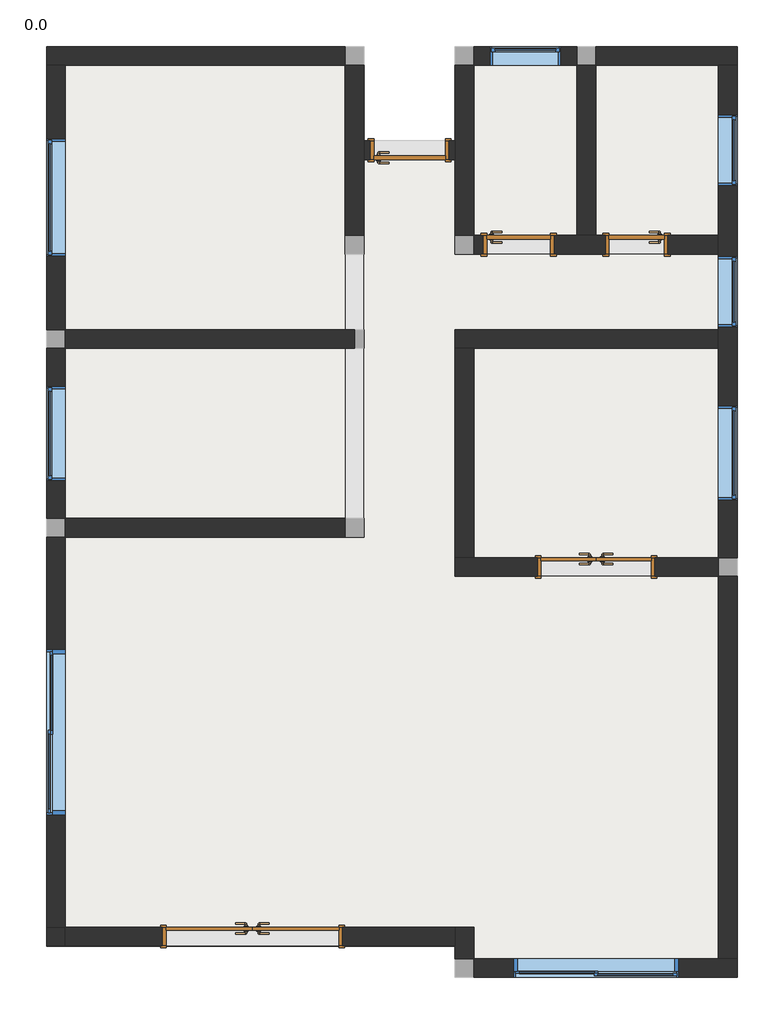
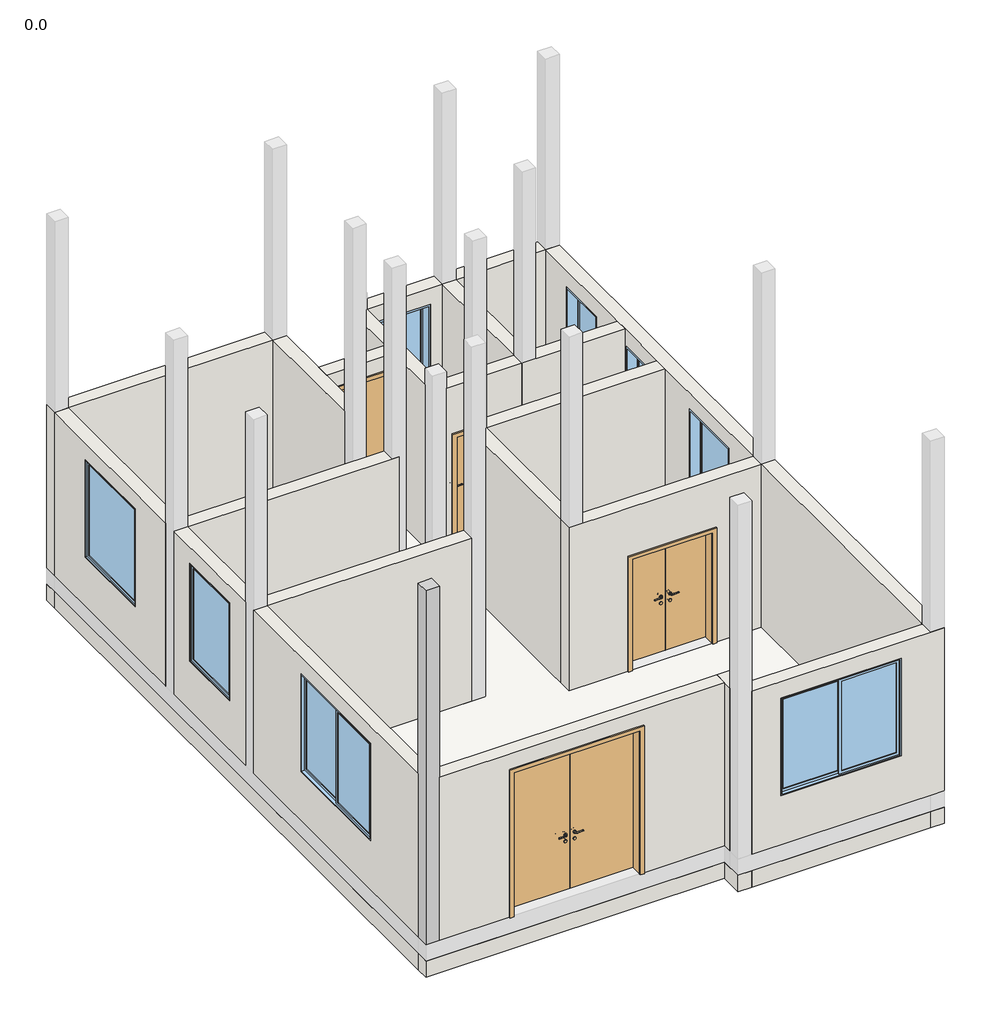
# One storey, part 1 of 2: 33 walls, 8 windows, 5 doors, 4 slabs, 2 columns.
"""IFC4 building model written with IfcOpenShell, lengths in millimetres."""

from ifc_helpers import new_model, si_unit, frame, origin, origin_with_axes, place, context, project, spatial, polyline, outline, extrude, faceted_brep, transform, mapped, element, save
from components import door_1000x2700_0706545c, door_1500x2100_cd5af115, door_2300x2700_a540c82a, door_800x2100_b0ab4c72, door_900_x_2100mm_2716a3da, window_1200x1800_594b251d, window_1500x1800_15bb4d9f, window_2100x1800_b942ef4d, window_900_x_1800mm_95888512

model = new_model("IFC4")

# Units and contexts
model_context = context("Model", 3, world=origin())
ifc_project = project(units=[si_unit("LENGTHUNIT", "METRE", prefix="MILLI")], contexts=[model_context])

# Site, building, storey
site = spatial("IfcSite", under=ifc_project)
building = spatial("IfcBuilding", under=site)
storey = spatial("IfcBuildingStorey", under=building, Name="0.0", Elevation=0.0)

# Columns
placement = place(None, origin())
element("IfcColumn", 1, ObjectType="混凝土 - 矩形 - 柱 : GZ2 240X240", at=placement, inside=storey, context=model_context, shape_type="SweptSolid", body=[
    extrude(outline(polyline([(-17058.0662967, -9534.3219782), (-17058.0662967, -9774.3219782), (-17298.0662967, -9774.3219782), (-17298.0662967, -9534.3219782), (-17058.0662967, -9534.3219782)])), origin_with_axes(), (0.0, 0.0, 1.0), 6510.0),
])
element("IfcColumn", 2, ObjectType="混凝土 - 矩形 - 柱 : GZ2 240X240", at=placement, inside=storey, context=model_context, shape_type="Brep", body=[
    faceted_brep([(-17058.0662967, -9534.3219782, 0.0), (-17058.0662967, -9774.3219782, 0.0), (-17298.0662967, -9774.3219782, 0.0), (-17298.0662967, -9534.3219782, 0.0), (-17058.0662967, -9534.3219782, 6510.0), (-17058.0662967, -9774.3219782, 6510.0), (-17058.0662967, -9774.3219782, 6300.0), (-17058.0662967, -9774.3219782, 3300.0), (-17058.0662967, -9774.3219782, 3000.0), (-17058.0662967, -9534.3219782, 3000.0), (-17058.0662967, -9534.3219782, 3300.0), (-17058.0662967, -9534.3219782, 6300.0), (-17298.0662967, -9774.3219782, 6510.0), (-17298.0662967, -9534.3219782, 6510.0), (-17298.0662967, -9534.3219782, 6300.0), (-17298.0662967, -9534.3219782, 3300.0), (-17298.0662967, -9534.3219782, 3000.0)], [[[0, 1, 2, 3]], [[4, 5, 6, 7, 8, 1, 0, 9, 10, 11]], [[5, 12, 2, 1, 8, 7, 6]], [[12, 13, 14, 15, 16, 3, 2]], [[13, 4, 11, 10, 9, 0, 3, 16, 15, 14]], [[4, 13, 12, 5]]]),
])

# Doors
door_1000x2700_shape = door_1000x2700_0706545c(model_context)
element("IfcDoor", 3, ObjectType="单嵌板木门 1 : 1000X2700", at=placement, inside=storey, context=model_context, shape_type="MappedRepresentation", body=[
    mapped(door_1000x2700_shape, transform((-12678.0662967, 345.6780218, 0.0), x_axis=(1.0, 0.0, 0.0), y_axis=(0.0, 1.0, 0.0), z_axis=(0.0, 0.0, 1.0))),
])
door_1500x2100_shape = door_1500x2100_cd5af115(model_context)
element("IfcDoor", 4, ObjectType="双面嵌板木门 1 : 1500X2100", at=placement, inside=storey, context=model_context, shape_type="MappedRepresentation", body=[
    mapped(door_1500x2100_shape, transform((-10303.0662967, -4954.3219782, 0.0), x_axis=(1.0, 0.0, 0.0), y_axis=(0.0, 1.0, 0.0), z_axis=(0.0, 0.0, 1.0))),
])
door_2300x2700_shape = door_2300x2700_a540c82a(model_context)
element("IfcDoor", 5, ObjectType="双面嵌板木门 1 : 2300X2700", at=placement, inside=storey, context=model_context, shape_type="MappedRepresentation", body=[
    mapped(door_2300x2700_shape, transform((-14678.0662967, -9654.3219782, 0.0), x_axis=(1.0, 0.0, 0.0), y_axis=(0.0, 1.0, 0.0), z_axis=(0.0, 0.0, 1.0))),
])
door_800x2100_shape = door_800x2100_b0ab4c72(model_context)
element("IfcDoor", 6, ObjectType="单嵌板木门 1 : 800X2100", at=placement, inside=storey, context=model_context, shape_type="MappedRepresentation", body=[
    mapped(door_800x2100_shape, transform((-9788.0662967, -854.3219782, 0.0), x_axis=(-1.0, 0.0, 0.0), y_axis=(0.0, -1.0, 0.0), z_axis=(0.0, 0.0, 1.0))),
])
door_900_x_2100mm_shape = door_900_x_2100mm_2716a3da(model_context)
element("IfcDoor", 7, ObjectType="单嵌板木门 1 : 900 x 2100mm", at=placement, inside=storey, context=model_context, shape_type="MappedRepresentation", body=[
    mapped(door_900_x_2100mm_shape, transform((-11288.0662967, -854.3219782, 0.0), x_axis=(1.0, 0.0, 0.0), y_axis=(0.0, 1.0, 0.0), z_axis=(0.0, 0.0, 1.0))),
])

# Slabs
element("IfcSlab", 8, ObjectType="常规 - 100mm", at=placement, inside=storey, context=model_context, shape_type="Brep", body=[
    faceted_brep([(-13498.0662967, 1425.6780218, -100.0), (-13498.0662967, -1934.3219782, -100.0), (-17058.0662967, -1934.3219782, -100.0), (-17058.0662967, 1425.6780218, -100.0), (-13498.0662967, 1425.6780218, 0.0), (-17058.0662967, 1425.6780218, 0.0), (-17058.0662967, -1934.3219782, 0.0), (-13498.0662967, -1934.3219782, 0.0), (-13498.0662967, 225.6780218, 0.0)], [[[0, 1, 2, 3]], [[4, 5, 6, 7, 8]], [[1, 0, 4, 8, 7]], [[2, 1, 7, 6]], [[3, 2, 6, 5]], [[0, 3, 5, 4]]]),
])
element("IfcSlab", 9, ObjectType="常规 - 100mm", at=placement, inside=storey, context=model_context, shape_type="SweptSolid", body=[
    extrude(outline(polyline([(-13498.0662967, -2174.3219782), (-13498.0662967, -4334.3219782), (-17058.0662967, -4334.3219782), (-17058.0662967, -2174.3219782), (-13498.0662967, -2174.3219782)])), frame((0.0, 0.0, -100.0), z_axis=(0.0, 0.0, 1.0), x_axis=(1.0, 0.0, 0.0)), (0.0, 0.0, 1.0), 100.0),
])
element("IfcSlab", 10, ObjectType="常规 - 100mm", at=placement, inside=storey, context=model_context, shape_type="Brep", body=[
    faceted_brep([(-11858.0662967, -9934.3219782, -100.0), (-11858.0662967, -9534.3219782, -100.0), (-17058.0662967, -9534.3219782, -100.0), (-17058.0662967, -4574.3219782, -100.0), (-13258.0662967, -4574.3219782, -100.0), (-13258.0662967, 225.6780218, -100.0), (-12098.0662967, 225.6780218, -100.0), (-12098.0662967, -974.3219782, -100.0), (-8748.0662967, -974.3219782, -100.0), (-8748.0662967, -1934.3219782, -100.0), (-12098.0662967, -1934.3219782, -100.0), (-12098.0662967, -5074.3219782, -100.0), (-8748.0662967, -5074.3219782, -100.0), (-8748.0662967, -9934.3219782, -100.0), (-11858.0662967, -9934.3219782, 0.0), (-8748.0662967, -9934.3219782, 0.0), (-8748.0662967, -5074.3219782, 0.0), (-12098.0662967, -5074.3219782, 0.0), (-12098.0662967, -4834.3219782, 0.0), (-12098.0662967, -2174.3219782, 0.0), (-12098.0662967, -1934.3219782, 0.0), (-8748.0662967, -1934.3219782, 0.0), (-8748.0662967, -974.3219782, 0.0), (-11858.0662967, -974.3219782, 0.0), (-12098.0662967, -974.3219782, 0.0), (-12098.0662967, 225.6780218, 0.0), (-13258.0662967, 225.6780218, 0.0), (-13258.0662967, -2174.3219782, 0.0), (-13258.0662967, -4334.3219782, 0.0), (-13258.0662967, -4574.3219782, 0.0), (-17058.0662967, -4574.3219782, 0.0), (-17058.0662967, -9534.3219782, 0.0), (-12098.0662967, -9534.3219782, 0.0), (-11858.0662967, -9534.3219782, 0.0)], [[[0, 1, 2, 3, 4, 5, 6, 7, 8, 9, 10, 11, 12, 13]], [[14, 15, 16, 17, 18, 19, 20, 21, 22, 23, 24, 25, 26, 27, 28, 29, 30, 31, 32, 33]], [[1, 0, 14, 33]], [[2, 1, 33, 32, 31]], [[3, 2, 31, 30]], [[4, 3, 30, 29]], [[5, 4, 29, 28, 27, 26]], [[6, 5, 26, 25]], [[7, 6, 25, 24]], [[12, 11, 17, 16]], [[13, 12, 16, 15]], [[0, 13, 15, 14]], [[8, 7, 24, 23, 22]], [[9, 8, 22, 21]], [[10, 9, 21, 20]], [[11, 10, 20, 19, 18, 17]]]),
])
element("IfcSlab", 11, ObjectType="常规 - 100mm", at=placement, inside=storey, context=model_context, shape_type="SweptSolid", body=[
    extrude(outline(polyline([(-10548.0662967, 1425.6780218), (-10548.0662967, -734.3219782), (-11858.0662967, -734.3219782), (-11858.0662967, 1425.6780218), (-10548.0662967, 1425.6780218)])), frame((0.0, 0.0, -130.0), z_axis=(0.0, 0.0, 1.0), x_axis=(1.0, 0.0, 0.0)), (0.0, 0.0, 1.0), 100.0),
    extrude(outline(polyline([(-10308.0662967, -734.3219782), (-10308.0662967, 1425.6780218), (-8748.0662967, 1425.6780218), (-8748.0662967, -734.3219782), (-10308.0662967, -734.3219782)])), frame((0.0, 0.0, -130.0), z_axis=(0.0, 0.0, 1.0), x_axis=(1.0, 0.0, 0.0)), (0.0, 0.0, 1.0), 100.0),
    extrude(outline(polyline([(-8748.0662967, -2174.3219782), (-8748.0662967, -4834.3219782), (-11858.0662967, -4834.3219782), (-11858.0662967, -2174.3219782), (-8748.0662967, -2174.3219782)])), frame((0.0, 0.0, -130.0), z_axis=(0.0, 0.0, 1.0), x_axis=(1.0, 0.0, 0.0)), (0.0, 0.0, 1.0), 100.0),
])

# Walls
element("IfcWall", 12, ObjectType="240mm砖墙", at=placement, inside=storey, context=model_context, shape_type="Brep", body=[
    faceted_brep([(-17298.0662967, 1425.6780218, -600.0), (-17058.0662967, 1425.6780218, -600.0), (-13498.0662967, 1425.6780218, -600.0), (-13258.0662967, 1425.6780218, -600.0), (-13258.0662967, 1425.6780218, -300.0), (-13498.0662967, 1425.6780218, -300.0), (-17058.0662967, 1425.6780218, -300.0), (-17298.0662967, 1425.6780218, -300.0), (-17298.0662967, 1665.6780218, -600.0), (-17298.0662967, 1665.6780218, -300.0), (-13258.0662967, 1665.6780218, -300.0), (-13258.0662967, 1665.6780218, -600.0)], [[[0, 1, 2, 3, 4, 5, 6, 7]], [[8, 9, 10, 11]], [[3, 2, 1, 0, 8, 11]], [[7, 6, 5, 4, 10, 9]], [[4, 3, 11, 10]], [[0, 7, 9, 8]]]),
])
element("IfcWall", 13, ObjectType="240mm砖墙", at=placement, inside=storey, context=model_context, shape_type="Brep", body=[
    faceted_brep([(-13498.0662967, 1425.6780218, -600.0), (-13498.0662967, -1934.3219782, -600.0), (-13498.0662967, -2174.3219782, -600.0), (-13498.0662967, -4334.3219782, -600.0), (-13498.0662967, -4574.3219782, -600.0), (-13498.0662967, -4574.3219782, -300.0), (-13498.0662967, -4334.3219782, -300.0), (-13498.0662967, -2174.3219782, -300.0), (-13498.0662967, -1934.3219782, -300.0), (-13498.0662967, 1425.6780218, -300.0), (-13258.0662967, 1425.6780218, -600.0), (-13258.0662967, 1425.6780218, -300.0), (-13258.0662967, 465.6780218, -300.0), (-13258.0662967, 225.6780218, -300.0), (-13258.0662967, -4574.3219782, -300.0), (-13258.0662967, -4574.3219782, -600.0), (-13258.0662967, 225.6780218, -600.0), (-13258.0662967, 465.6780218, -600.0)], [[[0, 1, 2, 3, 4, 5, 6, 7, 8, 9]], [[10, 11, 12, 13, 14, 15, 16, 17]], [[4, 3, 2, 1, 0, 10, 17, 16, 15]], [[9, 8, 7, 6, 5, 14, 13, 12, 11]], [[0, 9, 11, 10]], [[5, 4, 15, 14]]]),
])
element("IfcWall", 14, ObjectType="240mm砖墙", at=placement, inside=storey, context=model_context, shape_type="SweptSolid", body=[
    extrude(outline(polyline([(-11978.0662967, 225.6780218), (-13258.0662967, 225.6780218), (-13258.0662967, 465.6780218), (-11978.0662967, 465.6780218), (-11978.0662967, 225.6780218)])), frame((0.0, 0.0, -600.0), z_axis=(0.0, 0.0, 1.0), x_axis=(1.0, 0.0, 0.0)), (0.0, 0.0, 1.0), 300.0),
])
element("IfcWall", 15, ObjectType="240mm砖墙", at=placement, inside=storey, context=model_context, shape_type="Brep", body=[
    faceted_brep([(-11978.0662967, 1425.6780218, -600.0), (-10548.0662967, 1425.6780218, -600.0), (-10308.0662967, 1425.6780218, -600.0), (-8748.0662967, 1425.6780218, -600.0), (-8508.0662967, 1425.6780218, -600.0), (-8508.0662967, 1425.6780218, -300.0), (-8748.0662967, 1425.6780218, -300.0), (-10308.0662967, 1425.6780218, -300.0), (-10548.0662967, 1425.6780218, -300.0), (-11978.0662967, 1425.6780218, -300.0), (-11978.0662967, 1665.6780218, -600.0), (-11978.0662967, 1665.6780218, -300.0), (-8508.0662967, 1665.6780218, -300.0), (-8508.0662967, 1665.6780218, -600.0)], [[[0, 1, 2, 3, 4, 5, 6, 7, 8, 9]], [[10, 11, 12, 13]], [[4, 3, 2, 1, 0, 10, 13]], [[9, 8, 7, 6, 5, 12, 11]], [[0, 9, 11, 10]], [[5, 4, 13, 12]]]),
])
element("IfcWall", 16, ObjectType="240mm砖墙", at=placement, inside=storey, context=model_context, shape_type="Brep", body=[
    faceted_brep([(-8748.0662967, 1425.6780218, -600.0), (-8748.0662967, -734.3219782, -600.0), (-8748.0662967, -974.3219782, -600.0), (-8748.0662967, -1934.3219782, -600.0), (-8748.0662967, -2174.3219782, -600.0), (-8748.0662967, -4834.3219782, -600.0), (-8748.0662967, -5074.3219782, -600.0), (-8748.0662967, -9934.3219782, -600.0), (-8748.0662967, -10174.3219782, -600.0), (-8748.0662967, -10174.3219782, -300.0), (-8748.0662967, -9934.3219782, -300.0), (-8748.0662967, -5074.3219782, -300.0), (-8748.0662967, -4834.3219782, -300.0), (-8748.0662967, -2174.3219782, -300.0), (-8748.0662967, -1934.3219782, -300.0), (-8748.0662967, -974.3219782, -300.0), (-8748.0662967, -734.3219782, -300.0), (-8748.0662967, 1425.6780218, -300.0), (-8508.0662967, 1425.6780218, -600.0), (-8508.0662967, 1425.6780218, -300.0), (-8508.0662967, -10174.3219782, -300.0), (-8508.0662967, -10174.3219782, -600.0)], [[[0, 1, 2, 3, 4, 5, 6, 7, 8, 9, 10, 11, 12, 13, 14, 15, 16, 17]], [[18, 19, 20, 21]], [[8, 7, 6, 5, 4, 3, 2, 1, 0, 18, 21]], [[17, 16, 15, 14, 13, 12, 11, 10, 9, 20, 19]], [[0, 17, 19, 18]], [[9, 8, 21, 20]]]),
])
element("IfcWall", 17, ObjectType="240mm砖墙", at=placement, inside=storey, context=model_context, shape_type="SweptSolid", body=[
    extrude(outline(polyline([(-11858.0662967, -9934.3219782), (-8748.0662967, -9934.3219782), (-8748.0662967, -10174.3219782), (-11858.0662967, -10174.3219782), (-11858.0662967, -9934.3219782)])), frame((0.0, 0.0, -600.0), z_axis=(0.0, 0.0, 1.0), x_axis=(1.0, 0.0, 0.0)), (0.0, 0.0, 1.0), 300.0),
])
element("IfcWall", 18, ObjectType="240mm砖墙", at=placement, inside=storey, context=model_context, shape_type="Brep", body=[
    faceted_brep([(-11858.0662967, -10174.3219782, -600.0), (-11858.0662967, -9934.3219782, -600.0), (-11858.0662967, -9534.3219782, -600.0), (-11858.0662967, -9534.3219782, -300.0), (-11858.0662967, -9934.3219782, -300.0), (-11858.0662967, -10174.3219782, -300.0), (-12098.0662967, -10174.3219782, -600.0), (-12098.0662967, -10174.3219782, -300.0), (-12098.0662967, -9774.3219782, -300.0), (-12098.0662967, -9534.3219782, -300.0), (-12098.0662967, -9534.3219782, -600.0), (-12098.0662967, -9774.3219782, -600.0)], [[[0, 1, 2, 3, 4, 5]], [[6, 7, 8, 9, 10, 11]], [[2, 1, 0, 6, 11, 10]], [[5, 4, 3, 9, 8, 7]], [[0, 5, 7, 6]], [[3, 2, 10, 9]]]),
])
element("IfcWall", 19, ObjectType="240mm砖墙", at=placement, inside=storey, context=model_context, shape_type="Brep", body=[
    faceted_brep([(-12098.0662967, -9534.3219782, -600.0), (-17058.0662967, -9534.3219782, -600.0), (-17298.0662967, -9534.3219782, -600.0), (-17298.0662967, -9534.3219782, -300.0), (-17058.0662967, -9534.3219782, -300.0), (-12098.0662967, -9534.3219782, -300.0), (-12098.0662967, -9774.3219782, -600.0), (-12098.0662967, -9774.3219782, -300.0), (-17298.0662967, -9774.3219782, -300.0), (-17298.0662967, -9774.3219782, -600.0)], [[[0, 1, 2, 3, 4, 5]], [[6, 7, 8, 9]], [[2, 1, 0, 6, 9]], [[5, 4, 3, 8, 7]], [[0, 5, 7, 6]], [[3, 2, 9, 8]]]),
])
element("IfcWall", 20, ObjectType="240mm砖墙", at=placement, inside=storey, context=model_context, shape_type="Brep", body=[
    faceted_brep([(-17058.0662967, -9534.3219782, -600.0), (-17058.0662967, -4574.3219782, -600.0), (-17058.0662967, -4334.3219782, -600.0), (-17058.0662967, -2174.3219782, -600.0), (-17058.0662967, -1934.3219782, -600.0), (-17058.0662967, 1425.6780218, -600.0), (-17058.0662967, 1425.6780218, -300.0), (-17058.0662967, -1934.3219782, -300.0), (-17058.0662967, -2174.3219782, -300.0), (-17058.0662967, -4334.3219782, -300.0), (-17058.0662967, -4574.3219782, -300.0), (-17058.0662967, -9534.3219782, -300.0), (-17298.0662967, -9534.3219782, -600.0), (-17298.0662967, -9534.3219782, -300.0), (-17298.0662967, 1425.6780218, -300.0), (-17298.0662967, 1425.6780218, -600.0)], [[[0, 1, 2, 3, 4, 5, 6, 7, 8, 9, 10, 11]], [[12, 13, 14, 15]], [[5, 4, 3, 2, 1, 0, 12, 15]], [[11, 10, 9, 8, 7, 6, 14, 13]], [[0, 11, 13, 12]], [[6, 5, 15, 14]]]),
])
element("IfcWall", 21, ObjectType="240mm砖墙", at=placement, inside=storey, context=model_context, shape_type="SweptSolid", body=[
    extrude(outline(polyline([(-17058.0662967, -4334.3219782), (-13498.0662967, -4334.3219782), (-13498.0662967, -4574.3219782), (-17058.0662967, -4574.3219782), (-17058.0662967, -4334.3219782)])), frame((0.0, 0.0, -600.0), z_axis=(0.0, 0.0, 1.0), x_axis=(1.0, 0.0, 0.0)), (0.0, 0.0, 1.0), 300.0),
])
element("IfcWall", 22, ObjectType="240mm砖墙", at=placement, inside=storey, context=model_context, shape_type="SweptSolid", body=[
    extrude(outline(polyline([(-13498.0662967, -2174.3219782), (-17058.0662967, -2174.3219782), (-17058.0662967, -1934.3219782), (-13498.0662967, -1934.3219782), (-13498.0662967, -2174.3219782)])), frame((0.0, 0.0, -600.0), z_axis=(0.0, 0.0, 1.0), x_axis=(1.0, 0.0, 0.0)), (0.0, 0.0, 1.0), 300.0),
])
element("IfcWall", 23, ObjectType="240mm砖墙", at=placement, inside=storey, context=model_context, shape_type="Brep", body=[
    faceted_brep([(-8748.0662967, -734.3219782, -600.0), (-10308.0662967, -734.3219782, -600.0), (-10548.0662967, -734.3219782, -600.0), (-11978.0662967, -734.3219782, -600.0), (-11978.0662967, -734.3219782, -300.0), (-10548.0662967, -734.3219782, -300.0), (-10308.0662967, -734.3219782, -300.0), (-8748.0662967, -734.3219782, -300.0), (-8748.0662967, -974.3219782, -600.0), (-8748.0662967, -974.3219782, -300.0), (-11978.0662967, -974.3219782, -300.0), (-11978.0662967, -974.3219782, -600.0)], [[[0, 1, 2, 3, 4, 5, 6, 7]], [[8, 9, 10, 11]], [[3, 2, 1, 0, 8, 11]], [[4, 3, 11, 10]], [[7, 6, 5, 4, 10, 9]], [[0, 7, 9, 8]]]),
])
element("IfcWall", 24, ObjectType="240mm砖墙", at=placement, inside=storey, context=model_context, shape_type="SweptSolid", body=[
    extrude(outline(polyline([(-10548.0662967, -734.3219782), (-10548.0662967, 1425.6780218), (-10308.0662967, 1425.6780218), (-10308.0662967, -734.3219782), (-10548.0662967, -734.3219782)])), frame((0.0, 0.0, -600.0), z_axis=(0.0, 0.0, 1.0), x_axis=(1.0, 0.0, 0.0)), (0.0, 0.0, 1.0), 300.0),
])
element("IfcWall", 25, ObjectType="240mm砖墙", at=placement, inside=storey, context=model_context, shape_type="SweptSolid", body=[
    extrude(outline(polyline([(-11978.0662967, -4834.3219782), (-8748.0662967, -4834.3219782), (-8748.0662967, -5074.3219782), (-11978.0662967, -5074.3219782), (-11978.0662967, -4834.3219782)])), frame((0.0, 0.0, -600.0), z_axis=(0.0, 0.0, 1.0), x_axis=(1.0, 0.0, 0.0)), (0.0, 0.0, 1.0), 300.0),
])
element("IfcWall", 26, ObjectType="240mm砖墙", at=placement, inside=storey, context=model_context, shape_type="SweptSolid", body=[
    extrude(outline(polyline([(-11978.0662967, -1934.3219782), (-8748.0662967, -1934.3219782), (-8748.0662967, -2174.3219782), (-11978.0662967, -2174.3219782), (-11978.0662967, -1934.3219782)])), frame((0.0, 0.0, -600.0), z_axis=(0.0, 0.0, 1.0), x_axis=(1.0, 0.0, 0.0)), (0.0, 0.0, 1.0), 300.0),
])
element("IfcWall", 27, ObjectType="240mm砖墙", at=placement, inside=storey, context=model_context, shape_type="Brep", body=[
    faceted_brep([(-17298.0662967, 1425.6780218, 3000.0), (-17298.0662967, 1425.6780218, 0.0), (-17058.0662967, 1425.6780218, 0.0), (-13498.0662967, 1425.6780218, 0.0), (-13498.0662967, 1425.6780218, 3000.0), (-17058.0662967, 1425.6780218, 3000.0), (-17298.0662967, 1665.6780218, 0.0), (-17298.0662967, 1665.6780218, 3000.0), (-13498.0662967, 1665.6780218, 3000.0), (-13498.0662967, 1665.6780218, 0.0)], [[[0, 1, 2, 3, 4, 5]], [[6, 7, 8, 9]], [[1, 6, 9, 3, 2]], [[7, 0, 5, 4, 8]], [[4, 3, 9, 8]], [[1, 0, 7, 6]]]),
])
element("IfcWall", 28, ObjectType="240mm砖墙", at=placement, inside=storey, context=model_context, shape_type="Brep", body=[
    faceted_brep([(-13498.0662967, 1425.6780218, 0.0), (-13498.0662967, -734.3219782, 0.0), (-13498.0662967, -734.3219782, 3000.0), (-13498.0662967, 1425.6780218, 3000.0), (-13258.0662967, 1425.6780218, 0.0), (-13258.0662967, 1425.6780218, 3000.0), (-13258.0662967, 465.6780218, 3000.0), (-13258.0662967, 225.6780218, 3000.0), (-13258.0662967, -734.3219782, 3000.0), (-13258.0662967, -734.3219782, 0.0), (-13258.0662967, 225.6780218, 0.0), (-13258.0662967, 465.6780218, 0.0)], [[[0, 1, 2, 3]], [[4, 5, 6, 7, 8, 9, 10, 11]], [[1, 0, 4, 11, 10, 9]], [[2, 1, 9, 8]], [[3, 2, 8, 7, 6, 5]], [[0, 3, 5, 4]]]),
])
element("IfcWall", 29, ObjectType="240mm砖墙", at=placement, inside=storey, context=model_context, shape_type="Brep", body=[
    faceted_brep([(-11858.0662967, 1425.6780218, 0.0), (-11858.0662967, 1425.6780218, 3000.0), (-11858.0662967, -734.3219782, 3000.0), (-11858.0662967, -734.3219782, 0.0), (-12098.0662967, 1425.6780218, 3000.0), (-12098.0662967, 1425.6780218, 0.0), (-12098.0662967, 465.6780218, 0.0), (-12098.0662967, 225.6780218, 0.0), (-12098.0662967, -734.3219782, 0.0), (-12098.0662967, -734.3219782, 3000.0), (-12098.0662967, 225.6780218, 3000.0), (-12098.0662967, 465.6780218, 3000.0)], [[[0, 1, 2, 3]], [[4, 5, 6, 7, 8, 9, 10, 11]], [[5, 0, 3, 8, 7, 6]], [[1, 4, 11, 10, 9, 2]], [[1, 0, 5, 4]], [[3, 2, 9, 8]]]),
])
element("IfcWall", 30, ObjectType="240mm砖墙", at=placement, inside=storey, context=model_context, shape_type="SweptSolid", body=[
    extrude(outline(polyline([(3000.0, -11858.0662967), (0.0, -11858.0662967), (0.0, -10548.0662967), (3000.0, -10548.0662967), (3000.0, -11858.0662967)]), holes=[polyline([(2700.0, -10753.0662967), (900.0, -10753.0662967), (900.0, -11653.0662967), (2700.0, -11653.0662967), (2700.0, -10753.0662967)])]), frame((0.0, 1425.6780218, 0.0), z_axis=(0.0, 1.0, 0.0), x_axis=(0.0, 0.0, 1.0)), (0.0, 0.0, 1.0), 240.0),
])
element("IfcWall", 31, ObjectType="240mm砖墙", at=placement, inside=storey, context=model_context, shape_type="Brep", body=[
    faceted_brep([(-10308.0662967, 1425.6780218, 0.0), (-8748.0662967, 1425.6780218, 0.0), (-8508.0662967, 1425.6780218, 0.0), (-8508.0662967, 1425.6780218, 3000.0), (-8748.0662967, 1425.6780218, 3000.0), (-10308.0662967, 1425.6780218, 3000.0), (-10308.0662967, 1665.6780218, 0.0), (-10308.0662967, 1665.6780218, 3000.0), (-8508.0662967, 1665.6780218, 3000.0), (-8508.0662967, 1665.6780218, 0.0)], [[[0, 1, 2, 3, 4, 5]], [[6, 7, 8, 9]], [[2, 1, 0, 6, 9]], [[5, 4, 3, 8, 7]], [[3, 2, 9, 8]], [[0, 5, 7, 6]]]),
])
element("IfcWall", 32, ObjectType="240mm砖墙", at=placement, inside=storey, context=model_context, shape_type="Brep", body=[
    faceted_brep([(-8748.0662967, 1425.6780218, 3000.0), (-8748.0662967, 1425.6780218, 0.0), (-8748.0662967, -734.3219782, 0.0), (-8748.0662967, -974.3219782, 0.0), (-8748.0662967, -1934.3219782, 0.0), (-8748.0662967, -2174.3219782, 0.0), (-8748.0662967, -4834.3219782, 0.0), (-8748.0662967, -4834.3219782, 3000.0), (-8748.0662967, -2174.3219782, 3000.0), (-8748.0662967, -1934.3219782, 3000.0), (-8748.0662967, -974.3219782, 3000.0), (-8748.0662967, -734.3219782, 3000.0), (-8748.0662967, -4104.3219782, 2700.0), (-8748.0662967, -4104.3219782, 900.0), (-8748.0662967, -2904.3219782, 900.0), (-8748.0662967, -2904.3219782, 2700.0), (-8748.0662967, -1904.3219782, 2700.0), (-8748.0662967, -1904.3219782, 900.0), (-8748.0662967, -1004.3219782, 900.0), (-8748.0662967, -1004.3219782, 2700.0), (-8748.0662967, -104.3219782, 2700.0), (-8748.0662967, -104.3219782, 900.0), (-8748.0662967, 795.6780218, 900.0), (-8748.0662967, 795.6780218, 2700.0), (-8508.0662967, 1425.6780218, 0.0), (-8508.0662967, 1425.6780218, 3000.0), (-8508.0662967, -4834.3219782, 3000.0), (-8508.0662967, -4834.3219782, 0.0), (-8508.0662967, -4104.3219782, 900.0), (-8508.0662967, -4104.3219782, 2700.0), (-8508.0662967, -2904.3219782, 2700.0), (-8508.0662967, -2904.3219782, 900.0), (-8508.0662967, -1904.3219782, 900.0), (-8508.0662967, -1904.3219782, 2700.0), (-8508.0662967, -1004.3219782, 2700.0), (-8508.0662967, -1004.3219782, 900.0), (-8508.0662967, -104.3219782, 900.0), (-8508.0662967, -104.3219782, 2700.0), (-8508.0662967, 795.6780218, 2700.0), (-8508.0662967, 795.6780218, 900.0)], [[[0, 1, 2, 3, 4, 5, 6, 7, 8, 9, 10, 11], [12, 13, 14, 15], [16, 17, 18, 19], [20, 21, 22, 23]], [[24, 25, 26, 27], [28, 29, 30, 31], [32, 33, 34, 35], [36, 37, 38, 39]], [[1, 24, 27, 6, 5, 4, 3, 2]], [[25, 0, 11, 10, 9, 8, 7, 26]], [[1, 0, 25, 24]], [[7, 6, 27, 26]], [[13, 12, 29, 28]], [[14, 13, 28, 31]], [[15, 14, 31, 30]], [[12, 15, 30, 29]], [[17, 16, 33, 32]], [[18, 17, 32, 35]], [[19, 18, 35, 34]], [[16, 19, 34, 33]], [[21, 20, 37, 36]], [[22, 21, 36, 39]], [[23, 22, 39, 38]], [[20, 23, 38, 37]]]),
    faceted_brep([(-8748.0662967, -9934.3219782, 0.0), (-8748.0662967, -9934.3219782, 3000.0), (-8748.0662967, -5074.3219782, 3000.0), (-8748.0662967, -5074.3219782, 0.0), (-8508.0662967, -9934.3219782, 3000.0), (-8508.0662967, -9934.3219782, 0.0), (-8508.0662967, -5074.3219782, 0.0), (-8508.0662967, -5074.3219782, 3000.0)], [[[0, 1, 2, 3]], [[4, 5, 6, 7]], [[5, 0, 3, 6]], [[1, 4, 7, 2]], [[1, 0, 5, 4]], [[3, 2, 7, 6]]]),
])
element("IfcWall", 33, ObjectType="240mm砖墙", at=placement, inside=storey, context=model_context, shape_type="Brep", body=[
    faceted_brep([(-8748.0662967, -5074.3219782, 3000.0), (-12098.0662967, -5074.3219782, 3000.0), (-12098.0662967, -5074.3219782, 0.0), (-11053.0662967, -5074.3219782, 0.0), (-11053.0662967, -5074.3219782, 2100.0), (-9553.0662967, -5074.3219782, 2100.0), (-9553.0662967, -5074.3219782, 0.0), (-8748.0662967, -5074.3219782, 0.0), (-12098.0662967, -4834.3219782, 3000.0), (-11858.0662967, -4834.3219782, 3000.0), (-8748.0662967, -4834.3219782, 3000.0), (-8748.0662967, -4834.3219782, 0.0), (-9553.0662967, -4834.3219782, 0.0), (-9553.0662967, -4834.3219782, 2100.0), (-11053.0662967, -4834.3219782, 2100.0), (-11053.0662967, -4834.3219782, 0.0), (-11858.0662967, -4834.3219782, 0.0), (-12098.0662967, -4834.3219782, 0.0)], [[[0, 1, 2, 3, 4, 5, 6, 7]], [[8, 9, 10, 11, 12, 13, 14, 15, 16, 17]], [[11, 7, 6, 12]], [[2, 17, 16, 15, 3]], [[1, 0, 10, 9, 8]], [[0, 7, 11, 10]], [[2, 1, 8, 17]], [[5, 13, 12, 6]], [[13, 5, 4, 14]], [[14, 4, 3, 15]]]),
])
element("IfcWall", 34, ObjectType="240mm砖墙", at=placement, inside=storey, context=model_context, shape_type="Brep", body=[
    faceted_brep([(-8748.0662967, -1934.3219782, 0.0), (-12098.0662967, -1934.3219782, 0.0), (-12098.0662967, -1934.3219782, 3000.0), (-8748.0662967, -1934.3219782, 3000.0), (-8748.0662967, -2174.3219782, 0.0), (-8748.0662967, -2174.3219782, 3000.0), (-11858.0662967, -2174.3219782, 3000.0), (-12098.0662967, -2174.3219782, 3000.0), (-12098.0662967, -2174.3219782, 0.0), (-11858.0662967, -2174.3219782, 0.0)], [[[0, 1, 2, 3]], [[4, 5, 6, 7, 8, 9]], [[1, 0, 4, 9, 8]], [[3, 2, 7, 6, 5]], [[0, 3, 5, 4]], [[2, 1, 8, 7]]]),
])
element("IfcWall", 35, ObjectType="240mm砖墙", at=placement, inside=storey, context=model_context, shape_type="SweptSolid", body=[
    extrude(outline(polyline([(-11858.0662967, -2174.3219782), (-11858.0662967, -4834.3219782), (-12098.0662967, -4834.3219782), (-12098.0662967, -2174.3219782), (-11858.0662967, -2174.3219782)])), origin_with_axes(), (0.0, 0.0, 1.0), 3000.0),
])
element("IfcWall", 36, ObjectType="240mm砖墙", at=placement, inside=storey, context=model_context, shape_type="SweptSolid", body=[
    extrude(outline(polyline([(-10548.0662967, -734.3219782), (-10548.0662967, 1425.6780218), (-10308.0662967, 1425.6780218), (-10308.0662967, -734.3219782), (-10548.0662967, -734.3219782)])), origin_with_axes(), (0.0, 0.0, 1.0), 3000.0),
])
element("IfcWall", 37, ObjectType="240mm砖墙", at=placement, inside=storey, context=model_context, shape_type="Brep", body=[
    faceted_brep([(-8748.0662967, -974.3219782, 3000.0), (-11858.0662967, -974.3219782, 3000.0), (-11858.0662967, -974.3219782, 0.0), (-11738.0662967, -974.3219782, 0.0), (-11738.0662967, -974.3219782, 2100.0), (-10838.0662967, -974.3219782, 2100.0), (-10838.0662967, -974.3219782, 0.0), (-10188.0662967, -974.3219782, 0.0), (-10188.0662967, -974.3219782, 2100.0), (-9388.0662967, -974.3219782, 2100.0), (-9388.0662967, -974.3219782, 0.0), (-8748.0662967, -974.3219782, 0.0), (-11858.0662967, -734.3219782, 3000.0), (-10548.0662967, -734.3219782, 3000.0), (-10308.0662967, -734.3219782, 3000.0), (-8748.0662967, -734.3219782, 3000.0), (-8748.0662967, -734.3219782, 0.0), (-9388.0662967, -734.3219782, 0.0), (-9388.0662967, -734.3219782, 2100.0), (-10188.0662967, -734.3219782, 2100.0), (-10188.0662967, -734.3219782, 0.0), (-10308.0662967, -734.3219782, 0.0), (-10548.0662967, -734.3219782, 0.0), (-10838.0662967, -734.3219782, 0.0), (-10838.0662967, -734.3219782, 2100.0), (-11738.0662967, -734.3219782, 2100.0), (-11738.0662967, -734.3219782, 0.0), (-11858.0662967, -734.3219782, 0.0)], [[[0, 1, 2, 3, 4, 5, 6, 7, 8, 9, 10, 11]], [[12, 13, 14, 15, 16, 17, 18, 19, 20, 21, 22, 23, 24, 25, 26, 27]], [[16, 11, 10, 17]], [[2, 27, 26, 3]], [[20, 7, 6, 23, 22, 21]], [[1, 0, 15, 14, 13, 12]], [[2, 1, 12, 27]], [[0, 11, 16, 15]], [[19, 8, 7, 20]], [[8, 19, 18, 9]], [[9, 18, 17, 10]], [[5, 24, 23, 6]], [[24, 5, 4, 25]], [[25, 4, 3, 26]]]),
])
element("IfcWall", 38, ObjectType="240mm砖墙", at=placement, inside=storey, context=model_context, shape_type="SweptSolid", body=[
    extrude(outline(polyline([(-13378.0662967, -2174.3219782), (-17058.0662967, -2174.3219782), (-17058.0662967, -1934.3219782), (-13378.0662967, -1934.3219782), (-13378.0662967, -2174.3219782)])), origin_with_axes(), (0.0, 0.0, 1.0), 3000.0),
])
element("IfcWall", 39, ObjectType="240mm砖墙", at=placement, inside=storey, context=model_context, shape_type="SweptSolid", body=[
    extrude(outline(polyline([(-17058.0662967, -4574.3219782), (-17058.0662967, -4334.3219782), (-13498.0662967, -4334.3219782), (-13498.0662967, -4574.3219782), (-17058.0662967, -4574.3219782)])), origin_with_axes(), (0.0, 0.0, 1.0), 3000.0),
])
element("IfcWall", 40, ObjectType="240mm砖墙", at=placement, inside=storey, context=model_context, shape_type="SweptSolid", body=[
    extrude(outline(polyline([(1425.6780218, 3000.0), (1425.6780218, 0.0), (-1934.3219782, 0.0), (-1934.3219782, 3000.0), (1425.6780218, 3000.0)]), holes=[polyline([(495.6780218, 900.0), (495.6780218, 2700.0), (-1004.3219782, 2700.0), (-1004.3219782, 900.0), (495.6780218, 900.0)])]), frame((-17298.0662967, 0.0, 0.0), z_axis=(1.0, 0.0, 0.0), x_axis=(0.0, 1.0, 0.0)), (0.0, 0.0, 1.0), 240.0),
    extrude(outline(polyline([(-2174.3219782, 3000.0), (-2174.3219782, 0.0), (-4334.3219782, 0.0), (-4334.3219782, 3000.0), (-2174.3219782, 3000.0)]), holes=[polyline([(-2654.3219782, 900.0), (-2654.3219782, 2700.0), (-3854.3219782, 2700.0), (-3854.3219782, 900.0), (-2654.3219782, 900.0)])]), frame((-17298.0662967, 0.0, 0.0), z_axis=(1.0, 0.0, 0.0), x_axis=(0.0, 1.0, 0.0)), (0.0, 0.0, 1.0), 240.0),
    extrude(outline(polyline([(-4574.3219782, 3000.0), (-4574.3219782, 0.0), (-9534.3219782, 0.0), (-9534.3219782, 3000.0), (-4574.3219782, 3000.0)]), holes=[polyline([(-6004.3219782, 900.0), (-6004.3219782, 2700.0), (-8104.3219782, 2700.0), (-8104.3219782, 900.0), (-6004.3219782, 900.0)])]), frame((-17298.0662967, 0.0, 0.0), z_axis=(1.0, 0.0, 0.0), x_axis=(0.0, 1.0, 0.0)), (0.0, 0.0, 1.0), 240.0),
])
element("IfcWall", 41, ObjectType="240mm砖墙", at=placement, inside=storey, context=model_context, shape_type="SweptSolid", body=[
    extrude(outline(polyline([(3000.0, -12098.0662967), (3000.0, -17058.0662967), (0.0, -17058.0662967), (0.0, -15828.0662967), (2700.0, -15828.0662967), (2700.0, -13528.0662967), (0.0, -13528.0662967), (0.0, -12098.0662967), (3000.0, -12098.0662967)])), frame((0.0, -9774.3219782, 0.0), z_axis=(0.0, 1.0, 0.0), x_axis=(0.0, 0.0, 1.0)), (0.0, 0.0, 1.0), 240.0),
])
element("IfcWall", 42, ObjectType="240mm砖墙", at=placement, inside=storey, context=model_context, shape_type="Brep", body=[
    faceted_brep([(-12098.0662967, -9534.3219782, 3000.0), (-12098.0662967, -9534.3219782, 0.0), (-12098.0662967, -9774.3219782, 0.0), (-12098.0662967, -9934.3219782, 0.0), (-12098.0662967, -9934.3219782, 3000.0), (-12098.0662967, -9774.3219782, 3000.0), (-11858.0662967, -9534.3219782, 0.0), (-11858.0662967, -9534.3219782, 3000.0), (-11858.0662967, -9934.3219782, 3000.0), (-11858.0662967, -9934.3219782, 0.0)], [[[0, 1, 2, 3, 4, 5]], [[6, 7, 8, 9]], [[1, 6, 9, 3, 2]], [[7, 0, 5, 4, 8]], [[1, 0, 7, 6]], [[4, 3, 9, 8]]]),
])
element("IfcWall", 43, ObjectType="240mm砖墙", at=placement, inside=storey, context=model_context, shape_type="Brep", body=[
    faceted_brep([(-8508.0662967, -9934.3219782, 0.0), (-8748.0662967, -9934.3219782, 0.0), (-11858.0662967, -9934.3219782, 0.0), (-11858.0662967, -9934.3219782, 3000.0), (-8748.0662967, -9934.3219782, 3000.0), (-8508.0662967, -9934.3219782, 3000.0), (-11353.0662967, -9934.3219782, 2700.0), (-11353.0662967, -9934.3219782, 900.0), (-9253.0662967, -9934.3219782, 900.0), (-9253.0662967, -9934.3219782, 2700.0), (-8508.0662967, -10174.3219782, 0.0), (-8508.0662967, -10174.3219782, 3000.0), (-11858.0662967, -10174.3219782, 3000.0), (-11858.0662967, -10174.3219782, 0.0), (-11353.0662967, -10174.3219782, 2700.0), (-9253.0662967, -10174.3219782, 2700.0), (-9253.0662967, -10174.3219782, 900.0), (-11353.0662967, -10174.3219782, 900.0)], [[[0, 1, 2, 3, 4, 5], [6, 7, 8, 9]], [[10, 11, 12, 13], [14, 15, 16, 17]], [[2, 1, 0, 10, 13]], [[5, 4, 3, 12, 11]], [[3, 2, 13, 12]], [[0, 5, 11, 10]], [[7, 6, 14, 17]], [[8, 7, 17, 16]], [[9, 8, 16, 15]], [[6, 9, 15, 14]]]),
])
element("IfcWall", 44, ObjectType="240mm砖墙", at=placement, inside=storey, context=model_context, shape_type="SweptSolid", body=[
    extrude(outline(polyline([(3000.0, -12098.0662967), (3000.0, -13258.0662967), (0.0, -13258.0662967), (0.0, -13178.0662967), (2700.0, -13178.0662967), (2700.0, -12178.0662967), (0.0, -12178.0662967), (0.0, -12098.0662967), (3000.0, -12098.0662967)])), frame((0.0, 225.6780218, 0.0), z_axis=(0.0, 1.0, 0.0), x_axis=(0.0, 0.0, 1.0)), (0.0, 0.0, 1.0), 240.0),
])

# Windows
window_1200x1800_shape = window_1200x1800_594b251d(model_context)
element("IfcWindow", 45, ObjectType="固定窗 : 1200x1800", at=placement, inside=storey, context=model_context, shape_type="MappedRepresentation", body=[
    mapped(window_1200x1800_shape, transform((-17178.0662967, -3216.2219782, 600.0), x_axis=(0.0, 1.0, 0.0), y_axis=(-1.0, 0.0, 0.0), z_axis=(0.0, 0.0, 1.0))),
])
element("IfcWindow", 46, ObjectType="固定窗 : 1200x1800", at=placement, inside=storey, context=model_context, shape_type="MappedRepresentation", body=[
    mapped(window_1200x1800_shape, transform((-8628.0662967, -3542.4219782, 600.0), x_axis=(0.0, -1.0, 0.0), y_axis=(1.0, 0.0, 0.0), z_axis=(0.0, 0.0, 1.0))),
])
window_1500x1800_shape = window_1500x1800_15bb4d9f(model_context)
element("IfcWindow", 47, ObjectType="固定窗 : 1500x1800", at=placement, inside=storey, context=model_context, shape_type="MappedRepresentation", body=[
    mapped(window_1500x1800_shape, transform((-17178.0662967, -216.2219782, 600.0), x_axis=(0.0, 1.0, 0.0), y_axis=(-1.0, 0.0, 0.0), z_axis=(0.0, 0.0, 1.0))),
])
window_2100x1800_shape = window_2100x1800_b942ef4d(model_context)
element("IfcWindow", 48, ObjectType="推拉窗6 : 2100x1800", at=placement, inside=storey, context=model_context, shape_type="MappedRepresentation", body=[
    mapped(window_2100x1800_shape, transform((-10293.5412967, -10121.1954157, 300.0), x_axis=(-1.0, 0.0, 0.0), y_axis=(0.0, -1.0, 0.0), z_axis=(0.0, 0.0, 1.0))),
])
element("IfcWindow", 49, ObjectType="推拉窗6 : 2100x1800", at=placement, inside=storey, context=model_context, shape_type="MappedRepresentation", body=[
    mapped(window_2100x1800_shape, transform((-17244.9397342, -7063.8469782, 300.0), x_axis=(0.0, 1.0, 0.0), y_axis=(-1.0, 0.0, 0.0), z_axis=(0.0, 0.0, 1.0))),
])
window_900_x_1800mm_shape = window_900_x_1800mm_95888512(model_context)
element("IfcWindow", 50, ObjectType="固定窗 : 900 x 1800mm", at=placement, inside=storey, context=model_context, shape_type="MappedRepresentation", body=[
    mapped(window_900_x_1800mm_shape, transform((-8628.0662967, -1492.4219782, 600.0), x_axis=(0.0, -1.0, 0.0), y_axis=(1.0, 0.0, 0.0), z_axis=(0.0, 0.0, 1.0))),
])
element("IfcWindow", 51, ObjectType="固定窗 : 900 x 1800mm", at=placement, inside=storey, context=model_context, shape_type="MappedRepresentation", body=[
    mapped(window_900_x_1800mm_shape, transform((-8628.0662967, 307.5780218, 600.0), x_axis=(0.0, -1.0, 0.0), y_axis=(1.0, 0.0, 0.0), z_axis=(0.0, 0.0, 1.0))),
])
element("IfcWindow", 52, ObjectType="固定窗 : 900x1800", at=placement, inside=storey, context=model_context, shape_type="MappedRepresentation", body=[
    mapped(window_900_x_1800mm_shape, transform((-11164.9662967, 1545.6780218, 600.0), x_axis=(1.0, 0.0, 0.0), y_axis=(0.0, 1.0, 0.0), z_axis=(0.0, 0.0, 1.0))),
])

save(model, "model.ifc")
